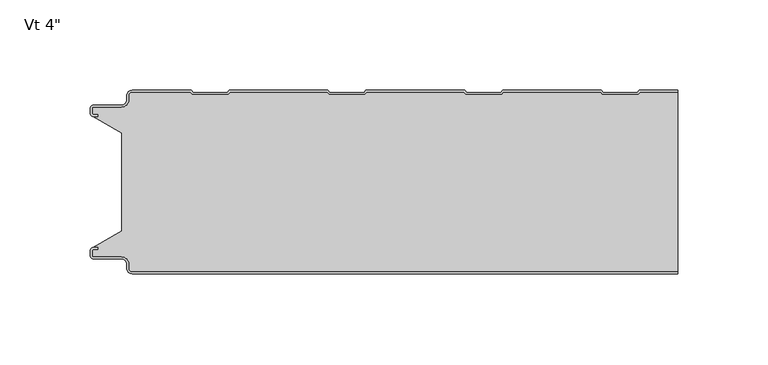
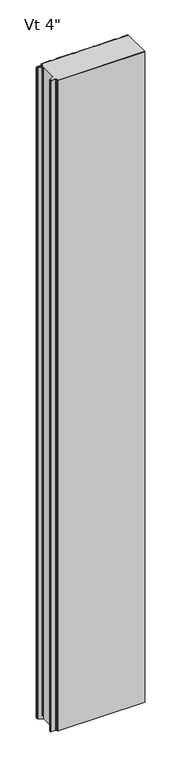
"""IFC4 building model written with IfcOpenShell, lengths in millimetres: plate geometry."""

from ifc_helpers import new_model, si_unit, frame, origin, place, context, project, spatial, polyline, circle_curve, source, transform, mapped, element, save
from ifc_brep_helpers import plane_surface, cylinder_surface, revolved_surface, advanced_brep


def plate_86622dce(model_context):
    return source(origin(), model_context, "Body", "AdvancedBrep", [
        advanced_brep(
        [(133.0522163, -1.0, 2400.0), (153.7374998, -1.0, 2400.0), (153.7374998, 0.0, 2400.0), (132.6097769, 0.0, 2400.0), (131.5372521, -1.1911595, 2400.0), (112.6391361, -1.1911595, 2400.0), (111.5666112, 0.0, 2400.0), (56.9871567, 0.0, 2400.0), (55.9146318, -1.1911595, 2400.0), (37.0165158, -1.1911595, 2400.0), (35.943991, 0.0, 2400.0), (-18.6354636, 0.0, 2400.0), (-19.7079884, -1.1911595, 2400.0), (-38.6061045, -1.1911595, 2400.0), (-39.6786293, 0.0, 2400.0), (-94.2580838, 0.0, 2400.0), (-95.3306087, -1.1911595, 2400.0), (-114.2287247, -1.1911595, 2400.0), (-115.3012496, 0.0, 2400.0), (-147.9102806, 0.0, 2400.0), (-150.8875472, -2.9772904, 2400.0), (-150.8875472, -5.2691742, 2400.0), (-153.8648158, -8.2464427, 2400.0), (-169.4612418, -8.2464427, 2400.0), (-171.0491183, -9.8343193, 2400.0), (-171.0491183, -12.905868, 2400.0), (-169.4612418, -14.4937445, 2400.0), (-167.1062063, -14.4937445, 2400.0), (-167.1062063, -13.4937445, 2400.0), (-169.4612418, -13.4937445, 2400.0), (-170.0491183, -12.905868, 2400.0), (-170.0491183, -9.8343193, 2400.0), (-169.4612418, -9.2464427, 2400.0), (-153.8648158, -9.2464427, 2400.0), (-149.8875472, -5.2691742, 2400.0), (-149.8875472, -2.9772904, 2400.0), (-147.9102799, -1.0000218, 2400.0), (-115.7436889, -1.0, 2400.0), (-114.671164, -2.1911595, 2400.0), (-94.8881694, -2.1911595, 2400.0), (-93.8156445, -1.0, 2400.0), (-40.1210686, -1.0, 2400.0), (-39.0485438, -2.1911595, 2400.0), (-19.2655491, -2.1911595, 2400.0), (-18.1930243, -1.0, 2400.0), (35.5015516, -1.0, 2400.0), (36.5740765, -2.1911595, 2400.0), (56.3570712, -2.1911595, 2400.0), (57.429596, -1.0, 2400.0), (111.1241719, -1.0, 2400.0), (112.1966967, -2.1911595, 2400.0), (131.9796914, -2.1911595, 2400.0), (132.6097769, 0.0, 0.0), (153.7374998, 0.0, 0.0), (153.7374998, -1.0, 0.0), (133.0522163, -1.0, 0.0), (131.9796914, -2.1911595, 0.0), (112.1966967, -2.1911595, 0.0), (111.1241719, -1.0, 0.0), (57.429596, -1.0, 0.0), (56.3570712, -2.1911595, 0.0), (36.5740765, -2.1911595, 0.0), (35.5015516, -1.0, 0.0), (-18.1930243, -1.0, 0.0), (-19.2655491, -2.1911595, 0.0), (-39.0485438, -2.1911595, 0.0), (-40.1210686, -1.0, 0.0), (-93.8156445, -1.0, 0.0), (-94.8881694, -2.1911595, 0.0), (-114.671164, -2.1911595, 0.0), (-115.7436889, -1.0, 0.0), (-147.9102799, -1.0, 0.0), (-149.8875472, -2.9772904, 0.0), (-149.8875472, -5.2691742, 0.0), (-153.8648158, -9.2464427, 0.0), (-169.4612418, -9.2464427, 0.0), (-170.0491183, -9.8343193, 0.0), (-170.0491183, -12.905868, 0.0), (-169.4612418, -13.4937445, 0.0), (-167.1062063, -13.4937445, 0.0), (-167.1062063, -14.4937445, 0.0), (-169.4612418, -14.4937445, 0.0), (-171.0491183, -12.905868, 0.0), (-171.0491183, -9.8343193, 0.0), (-169.4612418, -8.2464427, 0.0), (-153.8648158, -8.2464427, 0.0), (-150.8875472, -5.2691742, 0.0), (-150.8875472, -2.9772904, 0.0), (-147.9102806, -2.18e-05, 0.0), (-115.3012496, 0.0, 0.0), (-114.2287247, -1.1911595, 0.0), (-95.3306087, -1.1911595, 0.0), (-94.2580838, 0.0, 0.0), (-39.6786293, 0.0, 0.0), (-38.6061045, -1.1911595, 0.0), (-19.7079884, -1.1911595, 0.0), (-18.6354636, 0.0, 0.0), (35.943991, 0.0, 0.0), (37.0165158, -1.1911595, 0.0), (55.9146318, -1.1911595, 0.0), (56.9871567, 0.0, 0.0), (111.5666112, 0.0, 0.0), (112.6391361, -1.1911595, 0.0), (131.5372521, -1.1911595, 0.0)],
        [
            (0, 1),
            (1, 2),
            (2, 3),
            (3, 4),
            (4, 5),
            (5, 6),
            (6, 7),
            (7, 8),
            (8, 9),
            (9, 10),
            (10, 11),
            (11, 12),
            (12, 13),
            (13, 14),
            (14, 15),
            (15, 16),
            (16, 17),
            (17, 18),
            (18, 19),
            (19, 20, circle_curve(frame((-147.9102787, -2.9772904, 2400.0), z_axis=(0.0, 0.0, 1.0), x_axis=(0.0, 1.0, 0.0)), 2.9772685)),
            (20, 21),
            (21, 22, circle_curve(frame((-153.8648158, -5.2691742, 2400.0), z_axis=(0.0, 0.0, -1.0), x_axis=(0.0, 1.0, 0.0)), 2.9772685)),
            (22, 23),
            (23, 24, circle_curve(frame((-169.4612418, -9.8343193, 2400.0), z_axis=(0.0, 0.0, 1.0), x_axis=(0.0, 1.0, 0.0)), 1.5878765)),
            (24, 25),
            (25, 26, circle_curve(frame((-169.4612418, -12.905868, 2400.0), z_axis=(0.0, 0.0, 1.0), x_axis=(0.0, 1.0, 0.0)), 1.5878765)),
            (26, 27),
            (27, 28),
            (28, 29),
            (29, 30, circle_curve(frame((-169.4612418, -12.905868, 2400.0), z_axis=(0.0, 0.0, -1.0), x_axis=(0.0, 1.0, 0.0)), 0.5878765)),
            (30, 31),
            (31, 32, circle_curve(frame((-169.4612418, -9.8343193, 2400.0), z_axis=(0.0, 0.0, -1.0), x_axis=(0.0, 1.0, 0.0)), 0.5878765)),
            (32, 33),
            (33, 34, circle_curve(frame((-153.8648158, -5.2691742, 2400.0), z_axis=(0.0, 0.0, 1.0), x_axis=(0.0, 1.0, 0.0)), 3.9772685)),
            (34, 35),
            (35, 36, circle_curve(frame((-147.9102787, -2.9772904, 2400.0), z_axis=(0.0, 0.0, -1.0), x_axis=(0.0, 1.0, 0.0)), 1.9772685)),
            (36, 37),
            (37, 38),
            (38, 39),
            (39, 40),
            (40, 41),
            (41, 42),
            (42, 43),
            (43, 44),
            (44, 45),
            (45, 46),
            (46, 47),
            (47, 48),
            (48, 49),
            (49, 50),
            (50, 51),
            (51, 0),
            (52, 53),
            (53, 54),
            (54, 55),
            (55, 56),
            (56, 57),
            (57, 58),
            (58, 59),
            (59, 60),
            (60, 61),
            (61, 62),
            (62, 63),
            (63, 64),
            (64, 65),
            (65, 66),
            (66, 67),
            (67, 68),
            (68, 69),
            (69, 70),
            (70, 71),
            (71, 72, circle_curve(frame((-147.9102787, -2.9772904, 0.0), z_axis=(0.0, 0.0, 1.0), x_axis=(0.0, 1.0, 0.0)), 1.9772685)),
            (72, 73),
            (73, 74, circle_curve(frame((-153.8648158, -5.2691742, 0.0), z_axis=(0.0, 0.0, -1.0), x_axis=(0.0, 1.0, 0.0)), 3.9772685)),
            (74, 75),
            (75, 76, circle_curve(frame((-169.4612418, -9.8343193, 0.0), z_axis=(0.0, 0.0, 1.0), x_axis=(0.0, 1.0, 0.0)), 0.5878765)),
            (76, 77),
            (77, 78, circle_curve(frame((-169.4612418, -12.905868, 0.0), z_axis=(0.0, 0.0, 1.0), x_axis=(0.0, 1.0, 0.0)), 0.5878765)),
            (78, 79),
            (79, 80),
            (80, 81),
            (81, 82, circle_curve(frame((-169.4612418, -12.905868, 0.0), z_axis=(0.0, 0.0, -1.0), x_axis=(0.0, 1.0, 0.0)), 1.5878765)),
            (82, 83),
            (83, 84, circle_curve(frame((-169.4612418, -9.8343193, 0.0), z_axis=(0.0, 0.0, -1.0), x_axis=(0.0, 1.0, 0.0)), 1.5878765)),
            (84, 85),
            (85, 86, circle_curve(frame((-153.8648158, -5.2691742, 0.0), z_axis=(0.0, 0.0, 1.0), x_axis=(0.0, 1.0, 0.0)), 2.9772685)),
            (86, 87),
            (87, 88, circle_curve(frame((-147.9102787, -2.9772904, 0.0), z_axis=(0.0, 0.0, -1.0), x_axis=(0.0, 1.0, 0.0)), 2.9772685)),
            (88, 89),
            (89, 90),
            (90, 91),
            (91, 92),
            (92, 93),
            (93, 94),
            (94, 95),
            (95, 96),
            (96, 97),
            (97, 98),
            (98, 99),
            (99, 100),
            (100, 101),
            (101, 102),
            (102, 103),
            (103, 52),
            (54, 1),
            (0, 55),
            (51, 56),
            (50, 57),
            (49, 58),
            (48, 59),
            (47, 60),
            (46, 61),
            (45, 62),
            (44, 63),
            (43, 64),
            (42, 65),
            (41, 66),
            (40, 67),
            (39, 68),
            (38, 69),
            (37, 70),
            (36, 71),
            (35, 72),
            (34, 73),
            (33, 74),
            (32, 75),
            (31, 76),
            (30, 77),
            (29, 78),
            (28, 79),
            (27, 80),
            (26, 81),
            (25, 82),
            (24, 83),
            (23, 84),
            (22, 85),
            (21, 86),
            (20, 87),
            (19, 88),
            (18, 89),
            (17, 90),
            (16, 91),
            (15, 92),
            (14, 93),
            (13, 94),
            (12, 95),
            (11, 96),
            (10, 97),
            (9, 98),
            (8, 99),
            (7, 100),
            (6, 101),
            (5, 102),
            (4, 103),
            (3, 52),
            (2, 53),
        ],
        [
            plane_surface(frame((422.5250002, 0.0, 2400.0), z_axis=(0.0, 0.0, 1.0), x_axis=(0.0, 1.0, 0.0))),
            plane_surface(frame((422.5250002, 0.0, 0.0), z_axis=(0.0, 0.0, -1.0), x_axis=(0.0, 1.0, 0.0))),
            plane_surface(frame((186.7467922, -1.0, 2400.0), z_axis=(0.0, -1.0, 0.0), x_axis=(0.0, 0.0, -1.0))),
            plane_surface(frame((133.0522163, -1.0, 2400.0), z_axis=(0.7431448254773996, -0.6691306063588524, 0.0), x_axis=(0.0, 0.0, -1.0))),
            plane_surface(frame((131.9796914, -2.1911595, 2400.0), z_axis=(0.0, -1.0, 0.0), x_axis=(0.0, 0.0, -1.0))),
            plane_surface(frame((112.1966967, -2.1911595, 2400.0), z_axis=(-0.7431448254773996, -0.6691306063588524, 0.0), x_axis=(0.0, 0.0, -1.0))),
            plane_surface(frame((111.1241719, -1.0, 2400.0), z_axis=(0.0, -1.0, 0.0), x_axis=(0.0, 0.0, -1.0))),
            plane_surface(frame((57.429596, -1.0, 2400.0), z_axis=(0.7431448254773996, -0.6691306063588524, 0.0), x_axis=(0.0, 0.0, -1.0))),
            plane_surface(frame((56.3570712, -2.1911595, 2400.0), z_axis=(0.0, -1.0, 0.0), x_axis=(0.0, 0.0, -1.0))),
            plane_surface(frame((36.5740765, -2.1911595, 2400.0), z_axis=(-0.7431448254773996, -0.6691306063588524, 0.0), x_axis=(0.0, 0.0, -1.0))),
            plane_surface(frame((35.5015516, -1.0, 2400.0), z_axis=(0.0, -1.0, 0.0), x_axis=(0.0, 0.0, -1.0))),
            plane_surface(frame((-18.1930243, -1.0, 2400.0), z_axis=(0.7431448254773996, -0.6691306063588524, 0.0), x_axis=(0.0, 0.0, -1.0))),
            plane_surface(frame((-19.2655491, -2.1911595, 2400.0), z_axis=(0.0, -1.0, 0.0), x_axis=(0.0, 0.0, -1.0))),
            plane_surface(frame((-39.0485438, -2.1911595, 2400.0), z_axis=(-0.7431448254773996, -0.6691306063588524, 0.0), x_axis=(0.0, 0.0, -1.0))),
            plane_surface(frame((-40.1210686, -1.0, 2400.0), z_axis=(0.0, -1.0, 0.0), x_axis=(0.0, 0.0, -1.0))),
            plane_surface(frame((-93.8156445, -1.0, 2400.0), z_axis=(0.7431448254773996, -0.6691306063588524, 0.0), x_axis=(0.0, 0.0, -1.0))),
            plane_surface(frame((-94.8881694, -2.1911595, 2400.0), z_axis=(0.0, -1.0, 0.0), x_axis=(0.0, 0.0, -1.0))),
            plane_surface(frame((-114.671164, -2.1911595, 2400.0), z_axis=(-0.7431448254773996, -0.6691306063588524, 0.0), x_axis=(0.0, 0.0, -1.0))),
            plane_surface(frame((-115.7436889, -1.0, 2400.0), z_axis=(0.0, -1.0, 0.0), x_axis=(0.0, 0.0, -1.0))),
            revolved_surface(polyline([(-147.9102787, -1.0000218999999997, 0.0), (-147.9102787, -1.0000218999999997, 2400.0)]), (-147.9102787, -2.9772904, 2400.0), (0.0, 0.0, -1.0)),
            plane_surface(frame((-149.8875472, -2.9772904, 2400.0), z_axis=(1.0, 0.0, 0.0), x_axis=(0.0, 0.0, -1.0))),
            cylinder_surface(frame((-153.8648158, -5.2691742, 2400.0), z_axis=(0.0, 0.0, 1.0), x_axis=(0.0, 1.0, 0.0)), 3.9772685),
            plane_surface(frame((-153.8648158, -9.2464427, 2400.0), z_axis=(0.0, -1.0, 0.0), x_axis=(0.0, 0.0, -1.0))),
            revolved_surface(polyline([(-169.4612418, -9.2464428, 0.0), (-169.4612418, -9.2464428, 2400.0)]), (-169.4612418, -9.8343193, 2400.0), (0.0, 0.0, -1.0)),
            plane_surface(frame((-170.0491183, -9.8343193, 2400.0), z_axis=(1.0, 0.0, 0.0), x_axis=(0.0, 0.0, -1.0))),
            revolved_surface(polyline([(-169.4612418, -12.3179915, 0.0), (-169.4612418, -12.3179915, 2400.0)]), (-169.4612418, -12.905868, 2400.0), (0.0, 0.0, -1.0)),
            plane_surface(frame((-169.4612418, -13.4937445, 2400.0), z_axis=(0.0, 1.0, 0.0), x_axis=(0.0, 0.0, -1.0))),
            plane_surface(frame((-167.1062063, -13.4937445, 2400.0), z_axis=(1.0, 0.0, 0.0), x_axis=(0.0, 0.0, -1.0))),
            plane_surface(frame((-167.1062063, -14.4937445, 2400.0), z_axis=(0.0, -1.0, 0.0), x_axis=(0.0, 0.0, -1.0))),
            cylinder_surface(frame((-169.4612418, -12.905868, 2400.0), z_axis=(0.0, 0.0, 1.0), x_axis=(0.0, 1.0, 0.0)), 1.5878765),
            plane_surface(frame((-171.0491183, -12.905868, 2400.0), z_axis=(-1.0, 0.0, 0.0), x_axis=(0.0, 0.0, -1.0))),
            cylinder_surface(frame((-169.4612418, -9.8343193, 2400.0), z_axis=(0.0, 0.0, 1.0), x_axis=(0.0, 1.0, 0.0)), 1.5878765),
            plane_surface(frame((-169.4612418, -8.2464427, 2400.0), z_axis=(0.0, 1.0, 0.0), x_axis=(0.0, 0.0, -1.0))),
            revolved_surface(polyline([(-153.8648158, -2.2919057, 0.0), (-153.8648158, -2.2919057, 2400.0)]), (-153.8648158, -5.2691742, 2400.0), (0.0, 0.0, -1.0)),
            plane_surface(frame((-150.8875472, -5.2691742, 2400.0), z_axis=(-1.0, 0.0, 0.0), x_axis=(0.0, 0.0, -1.0))),
            cylinder_surface(frame((-147.9102787, -2.9772904, 2400.0), z_axis=(0.0, 0.0, 1.0), x_axis=(0.0, 1.0, 0.0)), 2.9772685),
            plane_surface(frame((-147.9102806, 0.0, 2400.0), z_axis=(0.0, 1.0, 0.0), x_axis=(0.0, 0.0, -1.0))),
            plane_surface(frame((-115.3012496, 0.0, 2400.0), z_axis=(0.7431448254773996, 0.6691306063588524, 0.0), x_axis=(0.0, 0.0, -1.0))),
            plane_surface(frame((-114.2287247, -1.1911595, 2400.0), z_axis=(0.0, 1.0, 0.0), x_axis=(0.0, 0.0, -1.0))),
            plane_surface(frame((-95.3306087, -1.1911595, 2400.0), z_axis=(-0.7431448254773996, 0.6691306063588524, 0.0), x_axis=(0.0, 0.0, -1.0))),
            plane_surface(frame((-94.2580838, 0.0, 2400.0), z_axis=(0.0, 1.0, 0.0), x_axis=(0.0, 0.0, -1.0))),
            plane_surface(frame((-39.6786293, 0.0, 2400.0), z_axis=(0.7431448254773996, 0.6691306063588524, 0.0), x_axis=(0.0, 0.0, -1.0))),
            plane_surface(frame((-38.6061045, -1.1911595, 2400.0), z_axis=(0.0, 1.0, 0.0), x_axis=(0.0, 0.0, -1.0))),
            plane_surface(frame((-19.7079884, -1.1911595, 2400.0), z_axis=(-0.7431448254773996, 0.6691306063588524, 0.0), x_axis=(0.0, 0.0, -1.0))),
            plane_surface(frame((-18.6354636, 0.0, 2400.0), z_axis=(0.0, 1.0, 0.0), x_axis=(0.0, 0.0, -1.0))),
            plane_surface(frame((35.943991, 0.0, 2400.0), z_axis=(0.7431448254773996, 0.6691306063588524, 0.0), x_axis=(0.0, 0.0, -1.0))),
            plane_surface(frame((37.0165158, -1.1911595, 2400.0), z_axis=(0.0, 1.0, 0.0), x_axis=(0.0, 0.0, -1.0))),
            plane_surface(frame((55.9146318, -1.1911595, 2400.0), z_axis=(-0.7431448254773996, 0.6691306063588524, 0.0), x_axis=(0.0, 0.0, -1.0))),
            plane_surface(frame((56.9871567, 0.0, 2400.0), z_axis=(0.0, 1.0, 0.0), x_axis=(0.0, 0.0, -1.0))),
            plane_surface(frame((111.5666112, 0.0, 2400.0), z_axis=(0.7431448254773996, 0.6691306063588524, 0.0), x_axis=(0.0, 0.0, -1.0))),
            plane_surface(frame((112.6391361, -1.1911595, 2400.0), z_axis=(0.0, 1.0, 0.0), x_axis=(0.0, 0.0, -1.0))),
            plane_surface(frame((131.5372521, -1.1911595, 2400.0), z_axis=(-0.7431448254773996, 0.6691306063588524, 0.0), x_axis=(0.0, 0.0, -1.0))),
            plane_surface(frame((132.6097769, 0.0, 2400.0), z_axis=(0.0, 1.0, 0.0), x_axis=(0.0, 0.0, -1.0))),
            plane_surface(frame((153.7374998, -111.6, 2400.0), z_axis=(1.0, 0.0, 0.0), x_axis=(0.0, 0.0, -1.0))),
        ],
        [
            (0, [[1, 2, 3, 4, 5, 6, 7, 8, 9, 10, 11, 12, 13, 14, 15, 16, 17, 18, 19, 20, 21, 22, 23, 24, 25, 26, 27, 28, 29, 30, 31, 32, 33, 34, 35, 36, 37, 38, 39, 40, 41, 42, 43, 44, 45, 46, 47, 48, 49, 50, 51, 52]]),
            (1, [[53, 54, 55, 56, 57, 58, 59, 60, 61, 62, 63, 64, 65, 66, 67, 68, 69, 70, 71, 72, 73, 74, 75, 76, 77, 78, 79, 80, 81, 82, 83, 84, 85, 86, 87, 88, 89, 90, 91, 92, 93, 94, 95, 96, 97, 98, 99, 100, 101, 102, 103, 104]]),
            (2, [[-55, 105, -1, 106]]),
            (3, [[107, -56, -106, -52]]),
            (4, [[108, -57, -107, -51]]),
            (5, [[109, -58, -108, -50]]),
            (6, [[110, -59, -109, -49]]),
            (7, [[111, -60, -110, -48]]),
            (8, [[112, -61, -111, -47]]),
            (9, [[113, -62, -112, -46]]),
            (10, [[114, -63, -113, -45]]),
            (11, [[115, -64, -114, -44]]),
            (12, [[116, -65, -115, -43]]),
            (13, [[117, -66, -116, -42]]),
            (14, [[118, -67, -117, -41]]),
            (15, [[119, -68, -118, -40]]),
            (16, [[120, -69, -119, -39]]),
            (17, [[121, -70, -120, -38]]),
            (18, [[122, -71, -121, -37]]),
            (19, [[123, -72, -122, -36]]),
            (20, [[124, -73, -123, -35]]),
            (21, [[125, -74, -124, -34]]),
            (22, [[126, -75, -125, -33]]),
            (23, [[127, -76, -126, -32]]),
            (24, [[128, -77, -127, -31]]),
            (25, [[129, -78, -128, -30]]),
            (26, [[130, -79, -129, -29]]),
            (27, [[131, -80, -130, -28]]),
            (28, [[132, -81, -131, -27]]),
            (29, [[133, -82, -132, -26]]),
            (30, [[134, -83, -133, -25]]),
            (31, [[135, -84, -134, -24]]),
            (32, [[136, -85, -135, -23]]),
            (33, [[137, -86, -136, -22]]),
            (34, [[138, -87, -137, -21]]),
            (35, [[139, -88, -138, -20]]),
            (36, [[140, -89, -139, -19]]),
            (37, [[141, -90, -140, -18]]),
            (38, [[142, -91, -141, -17]]),
            (39, [[143, -92, -142, -16]]),
            (40, [[144, -93, -143, -15]]),
            (41, [[145, -94, -144, -14]]),
            (42, [[146, -95, -145, -13]]),
            (43, [[147, -96, -146, -12]]),
            (44, [[148, -97, -147, -11]]),
            (45, [[149, -98, -148, -10]]),
            (46, [[150, -99, -149, -9]]),
            (47, [[151, -100, -150, -8]]),
            (48, [[152, -101, -151, -7]]),
            (49, [[153, -102, -152, -6]]),
            (50, [[154, -103, -153, -5]]),
            (51, [[155, -104, -154, -4]]),
            (52, [[-3, 156, -53, -155]]),
            (53, [[-105, -54, -156, -2]]),
        ],
    ),
        advanced_brep(
        [(-149.8873936, -98.6223811, 2400.0), (-149.8873936, -96.3308685, 2400.0), (-153.864739, -92.3535232, 2400.0), (-169.4612512, -92.3535232, 2400.0), (-170.0491084, -91.765666, 2400.0), (-170.0491084, -88.6941346, 2400.0), (-169.4612373, -88.1062635, 2400.0), (-167.1062063, -88.1062635, 2400.0), (-167.1062063, -87.1062599, 2400.0), (-169.4612418, -87.1062599, 2400.0), (-171.0491183, -88.6941364, 2400.0), (-171.0491183, -91.7656851, 2400.0), (-169.4612418, -93.3535616, 2400.0), (-153.8648158, -93.3535616, 2400.0), (-150.8875472, -96.3308302, 2400.0), (-150.8875472, -98.622714, 2400.0), (-147.9102787, -101.5999825, 2400.0), (153.7374998, -101.6, 2400.0), (153.7374998, -100.5992912, 2400.0), (-147.9104835, -100.5992912, 2400.0), (-149.8873936, -98.6223811, 0.0), (-147.9104835, -100.5992912, 0.0), (153.7374998, -100.5992912, 0.0), (153.7374998, -101.6, 0.0), (-147.9102787, -101.6, 0.0), (-150.8875472, -98.622714, 0.0), (-150.8875472, -96.3308302, 0.0), (-153.8648158, -93.3535616, 0.0), (-169.4612418, -93.3535616, 0.0), (-171.0491183, -91.7656851, 0.0), (-171.0491183, -88.6941364, 0.0), (-169.4612418, -87.1062599, 0.0), (-167.1062063, -87.1062599, 0.0), (-167.1062063, -88.1062635, 0.0), (-169.4612373, -88.1062635, 0.0), (-170.0491084, -88.6941346, 0.0), (-170.0491084, -91.765666, 0.0), (-169.4612512, -92.3535232, 0.0), (-153.864739, -92.3535232, 0.0), (-149.8873936, -96.3308685, 0.0)],
        [
            (0, 1),
            (1, 2, circle_curve(frame((-153.864739, -96.3308685, 2400.0), z_axis=(0.0, 0.0, 1.0), x_axis=(-1.0, 0.0, 0.0)), 3.9773454)),
            (2, 3),
            (3, 4, circle_curve(frame((-169.4612512, -91.765666, 2400.0), z_axis=(0.0, 0.0, -1.0), x_axis=(-1.0, 0.0, 0.0)), 0.5878572)),
            (4, 5),
            (5, 6, circle_curve(frame((-169.4612373, -88.6941346, 2400.0), z_axis=(0.0, 0.0, -1.0), x_axis=(-1.0, 0.0, 0.0)), 0.5878711)),
            (6, 7),
            (7, 8),
            (8, 9),
            (9, 10, circle_curve(frame((-169.4612418, -88.6941364, 2400.0), z_axis=(0.0, 0.0, 1.0), x_axis=(-1.0, 0.0, 0.0)), 1.5878765)),
            (10, 11),
            (11, 12, circle_curve(frame((-169.4612418, -91.7656851, 2400.0), z_axis=(0.0, 0.0, 1.0), x_axis=(-1.0, 0.0, 0.0)), 1.5878765)),
            (12, 13),
            (13, 14, circle_curve(frame((-153.8648158, -96.3308302, 2400.0), z_axis=(0.0, 0.0, -1.0), x_axis=(-1.0, 0.0, 0.0)), 2.9772685)),
            (14, 15),
            (15, 16, circle_curve(frame((-147.9102787, -98.622714, 2400.0), z_axis=(0.0, 0.0, 1.0), x_axis=(-1.0, 0.0, 0.0)), 2.9772685)),
            (16, 17),
            (17, 18),
            (18, 19),
            (19, 0, circle_curve(frame((-147.9104835, -98.6223811, 2400.0), z_axis=(0.0, 0.0, -1.0), x_axis=(-1.0, 0.0, 0.0)), 1.9769101)),
            (20, 21, circle_curve(frame((-147.9104835, -98.6223811, 0.0), z_axis=(0.0, 0.0, 1.0), x_axis=(-1.0, 0.0, 0.0)), 1.9769101)),
            (21, 22),
            (22, 23),
            (23, 24),
            (24, 25, circle_curve(frame((-147.9102787, -98.622714, 0.0), z_axis=(0.0, 0.0, -1.0), x_axis=(-1.0, 0.0, 0.0)), 2.9772685)),
            (25, 26),
            (26, 27, circle_curve(frame((-153.8648158, -96.3308302, 0.0), z_axis=(0.0, 0.0, 1.0), x_axis=(-1.0, 0.0, 0.0)), 2.9772685)),
            (27, 28),
            (28, 29, circle_curve(frame((-169.4612418, -91.7656851, 0.0), z_axis=(0.0, 0.0, -1.0), x_axis=(-1.0, 0.0, 0.0)), 1.5878765)),
            (29, 30),
            (30, 31, circle_curve(frame((-169.4612418, -88.6941364, 0.0), z_axis=(0.0, 0.0, -1.0), x_axis=(-1.0, 0.0, 0.0)), 1.5878765)),
            (31, 32),
            (32, 33),
            (33, 34),
            (34, 35, circle_curve(frame((-169.4612373, -88.6941346, 0.0), z_axis=(0.0, 0.0, 1.0), x_axis=(-1.0, 0.0, 0.0)), 0.5878711)),
            (35, 36),
            (36, 37, circle_curve(frame((-169.4612512, -91.765666, 0.0), z_axis=(0.0, 0.0, 1.0), x_axis=(-1.0, 0.0, 0.0)), 0.5878572)),
            (37, 38),
            (38, 39, circle_curve(frame((-153.864739, -96.3308685, 0.0), z_axis=(0.0, 0.0, -1.0), x_axis=(-1.0, 0.0, 0.0)), 3.9773454)),
            (39, 20),
            (17, 23),
            (22, 18),
            (16, 24),
            (21, 19),
            (20, 0),
            (39, 1),
            (38, 2),
            (37, 3),
            (4, 36),
            (35, 5),
            (34, 6),
            (33, 7),
            (32, 8),
            (31, 9),
            (30, 10),
            (29, 11),
            (28, 12),
            (27, 13),
            (26, 14),
            (25, 15),
        ],
        [
            plane_surface(frame((422.5250002, -101.6, 2400.0), z_axis=(0.0, 0.0, 1.0), x_axis=(0.0, -1.0, 0.0))),
            plane_surface(frame((422.5250002, -101.6, 0.0), z_axis=(0.0, 0.0, -1.0), x_axis=(0.0, -1.0, 0.0))),
            plane_surface(frame((153.7374998, -111.6, 2400.0), z_axis=(1.0, 0.0, 0.0), x_axis=(0.0, 0.0, -1.0))),
            plane_surface(frame((997.0725653, -101.6, 2400.0), z_axis=(0.0, -1.0, 0.0), x_axis=(0.0, 0.0, -1.0))),
            plane_surface(frame((-147.9104835, -100.5992912, 2400.0), z_axis=(0.0, 1.0, 0.0), x_axis=(0.0, 0.0, -1.0))),
            revolved_surface(polyline([(-149.8873936, -98.6223811, 0.0), (-149.8873936, -98.6223811, 2400.0)]), (-147.9104835, -98.6223811, 2400.0), (0.0, 0.0, -1.0)),
            plane_surface(frame((-149.8873936, -96.3308685, 2400.0), z_axis=(1.0, 0.0, 0.0), x_axis=(0.0, 0.0, -1.0))),
            cylinder_surface(frame((-153.864739, -96.3308685, 2400.0), z_axis=(0.0, 0.0, 1.0), x_axis=(-1.0, 0.0, 0.0)), 3.9773454),
            plane_surface(frame((-169.4612512, -92.3535232, 2400.0), z_axis=(0.0, 1.0, 0.0), x_axis=(0.0, 0.0, -1.0))),
            plane_surface(frame((-170.0491084, -88.6941346, 2400.0), z_axis=(1.0, 0.0, 0.0), x_axis=(0.0, 0.0, -1.0))),
            revolved_surface(polyline([(-170.0491084, -88.6941346, 0.0), (-170.0491084, -88.6941346, 2400.0)]), (-169.4612373, -88.6941346, 2400.0), (0.0, 0.0, -1.0)),
            plane_surface(frame((-167.1062063, -88.1062635, 2400.0), z_axis=(0.0, -1.0, 0.0), x_axis=(0.0, 0.0, -1.0))),
            plane_surface(frame((-167.1062063, -87.1062599, 2400.0), z_axis=(1.0, 0.0, 0.0), x_axis=(0.0, 0.0, -1.0))),
            plane_surface(frame((-169.4612418, -87.1062599, 2400.0), z_axis=(0.0, 1.0, 0.0), x_axis=(0.0, 0.0, -1.0))),
            cylinder_surface(frame((-169.4612418, -88.6941364, 2400.0), z_axis=(0.0, 0.0, 1.0), x_axis=(-1.0, 0.0, 0.0)), 1.5878765),
            plane_surface(frame((-171.0491183, -91.7656851, 2400.0), z_axis=(-1.0, 0.0, 0.0), x_axis=(0.0, 0.0, -1.0))),
            cylinder_surface(frame((-169.4612418, -91.7656851, 2400.0), z_axis=(0.0, 0.0, 1.0), x_axis=(-1.0, 0.0, 0.0)), 1.5878765),
            plane_surface(frame((-153.8648158, -93.3535616, 2400.0), z_axis=(0.0, -1.0, 0.0), x_axis=(0.0, 0.0, -1.0))),
            revolved_surface(polyline([(-156.8420843, -96.3308302, 0.0), (-156.8420843, -96.3308302, 2400.0)]), (-153.8648158, -96.3308302, 2400.0), (0.0, 0.0, -1.0)),
            plane_surface(frame((-150.8875472, -98.622714, 2400.0), z_axis=(-1.0, 0.0, 0.0), x_axis=(0.0, 0.0, -1.0))),
            cylinder_surface(frame((-147.9102787, -98.622714, 2400.0), z_axis=(0.0, 0.0, 1.0), x_axis=(-1.0, 0.0, 0.0)), 2.9772685),
            revolved_surface(polyline([(-170.0491084, -91.765666, 0.0), (-170.0491084, -91.765666, 2400.0)]), (-169.4612512, -91.765666, 2400.0), (0.0, 0.0, -1.0)),
        ],
        [
            (0, [[1, 2, 3, 4, 5, 6, 7, 8, 9, 10, 11, 12, 13, 14, 15, 16, 17, 18, 19, 20]]),
            (1, [[21, 22, 23, 24, 25, 26, 27, 28, 29, 30, 31, 32, 33, 34, 35, 36, 37, 38, 39, 40]]),
            (2, [[41, -23, 42, -18]]),
            (3, [[-24, -41, -17, 43]]),
            (4, [[-19, -42, -22, 44]]),
            (5, [[-44, -21, 45, -20]]),
            (6, [[-45, -40, 46, -1]]),
            (7, [[-46, -39, 47, -2]]),
            (8, [[-47, -38, 48, -3]]),
            (9, [[49, -36, 50, -5]]),
            (10, [[-50, -35, 51, -6]]),
            (11, [[-51, -34, 52, -7]]),
            (12, [[-52, -33, 53, -8]]),
            (13, [[-53, -32, 54, -9]]),
            (14, [[-54, -31, 55, -10]]),
            (15, [[-55, -30, 56, -11]]),
            (16, [[-56, -29, 57, -12]]),
            (17, [[-57, -28, 58, -13]]),
            (18, [[-58, -27, 59, -14]]),
            (19, [[-59, -26, 60, -15]]),
            (20, [[-60, -25, -43, -16]]),
            (21, [[-48, -37, -49, -4]]),
        ],
    ),
        advanced_brep(
        [(-149.88755, -98.6227194, 2400.0), (-147.910276, -100.5999935, 2400.0), (153.7374998, -100.6, 2400.0), (153.7374998, -1.0, 2400.0), (133.0522163, -1.0, 2400.0), (131.9796914, -2.1911595, 2400.0), (112.1966967, -2.1911595, 2400.0), (111.1241719, -1.0, 2400.0), (57.429596, -1.0, 2400.0), (56.3570712, -2.1911595, 2400.0), (36.5740765, -2.1911595, 2400.0), (35.5015516, -1.0, 2400.0), (-18.1930243, -1.0, 2400.0), (-19.2655491, -2.1911595, 2400.0), (-39.0485438, -2.1911595, 2400.0), (-40.1210686, -1.0, 2400.0), (-93.8156445, -1.0, 2400.0), (-94.8881694, -2.1911595, 2400.0), (-114.671164, -2.1911595, 2400.0), (-115.7436889, -1.0000109, 2400.0), (-147.910276, -1.0000109, 2400.0), (-149.88755, -2.9772849, 2400.0), (-149.88755, -5.2691749, 2400.0), (-153.8648171, -9.246442, 2400.0), (-169.4612416, -9.246442, 2400.0), (-170.0491185, -9.8343189, 2400.0), (-170.0491185, -12.9058679, 2400.0), (-169.4612418, -13.4937446, 2400.0), (-167.1062063, -13.4937446, 2400.0), (-167.1062063, -14.4937446, 2400.0), (-169.395785, -14.4937446, 2400.0), (-153.7374998, -23.7509179, 2400.0), (-153.7374998, -77.8490865, 2400.0), (-169.395785, -87.1062598, 2400.0), (-167.1062063, -87.1062598, 2400.0), (-167.1062063, -88.1062598, 2400.0), (-169.4612418, -88.1062598, 2400.0), (-170.0491185, -88.6941365, 2400.0), (-170.0491185, -91.7656854, 2400.0), (-169.4612416, -92.3535623, 2400.0), (-153.8648171, -92.3535623, 2400.0), (-149.88755, -96.3308295, 2400.0), (-149.88755, -98.6227194, 0.0), (-149.88755, -96.3308295, 0.0), (-153.8648171, -92.3535623, 0.0), (-169.4612416, -92.3535623, 0.0), (-170.0491185, -91.7656854, 0.0), (-170.0491185, -88.6941365, 0.0), (-169.4612418, -88.1062598, 0.0), (-167.1062063, -88.1062598, 0.0), (-167.1062063, -87.1062598, 0.0), (-169.395785, -87.1062598, 0.0), (-153.7374998, -77.8490865, 0.0), (-153.7374998, -23.7509179, 0.0), (-169.395785, -14.4937446, 0.0), (-167.1062063, -14.4937446, 0.0), (-167.1062063, -13.4937446, 0.0), (-169.4612418, -13.4937446, 0.0), (-170.0491185, -12.9058679, 0.0), (-170.0491185, -9.8343189, 0.0), (-169.4612416, -9.246442, 0.0), (-153.8648171, -9.246442, 0.0), (-149.88755, -5.2691749, 0.0), (-149.88755, -2.9772849, 0.0), (-147.910276, -1.0000109, 0.0), (-115.7436889, -1.0000109, 0.0), (-114.671164, -2.1911595, 0.0), (-94.8881694, -2.1911595, 0.0), (-93.8156445, -1.0, 0.0), (-40.1210686, -1.0, 0.0), (-39.0485438, -2.1911595, 0.0), (-19.2655491, -2.1911595, 0.0), (-18.1930243, -1.0, 0.0), (35.5015516, -1.0, 0.0), (36.5740765, -2.1911595, 0.0), (56.3570712, -2.1911595, 0.0), (57.429596, -1.0, 0.0), (111.1241719, -1.0, 0.0), (112.1966967, -2.1911595, 0.0), (131.9796914, -2.1911595, 0.0), (133.0522163, -1.0, 0.0), (153.7374998, -1.0, 0.0), (153.7374998, -100.6, 0.0), (-147.910276, -100.6, 0.0)],
        [
            (0, 1, circle_curve(frame((-147.910276, -98.6227194, 2400.0), z_axis=(0.0, 0.0, 1.0), x_axis=(-1.0, 0.0, 0.0)), 1.977274)),
            (1, 2),
            (2, 3),
            (3, 4),
            (4, 5),
            (5, 6),
            (6, 7),
            (7, 8),
            (8, 9),
            (9, 10),
            (10, 11),
            (11, 12),
            (12, 13),
            (13, 14),
            (14, 15),
            (15, 16),
            (16, 17),
            (17, 18),
            (18, 19),
            (19, 20),
            (20, 21, circle_curve(frame((-147.910276, -2.9772849, 2400.0), z_axis=(0.0, 0.0, 1.0), x_axis=(0.0, 1.0, 0.0)), 1.977274)),
            (21, 22),
            (22, 23, circle_curve(frame((-153.8648171, -5.2691749, 2400.0), z_axis=(0.0, 0.0, -1.0), x_axis=(0.0, 1.0, 0.0)), 3.9772671)),
            (23, 24),
            (24, 25, circle_curve(frame((-169.4612416, -9.8343189, 2400.0), z_axis=(0.0, 0.0, 1.0), x_axis=(0.0, 1.0, 0.0)), 0.5878769)),
            (25, 26),
            (26, 27, circle_curve(frame((-169.4612418, -12.9058679, 2400.0), z_axis=(0.0, 0.0, 1.0), x_axis=(0.0, 1.0, 0.0)), 0.5878766)),
            (27, 28),
            (28, 29),
            (29, 30),
            (30, 31),
            (31, 32),
            (32, 33),
            (33, 34),
            (34, 35),
            (35, 36),
            (36, 37, circle_curve(frame((-169.4612418, -88.6941365, 2400.0), z_axis=(0.0, 0.0, 1.0), x_axis=(-1.0, 0.0, 0.0)), 0.5878766)),
            (37, 38),
            (38, 39, circle_curve(frame((-169.4612416, -91.7656854, 2400.0), z_axis=(0.0, 0.0, 1.0), x_axis=(-1.0, 0.0, 0.0)), 0.5878769)),
            (39, 40),
            (40, 41, circle_curve(frame((-153.8648171, -96.3308295, 2400.0), z_axis=(0.0, 0.0, -1.0), x_axis=(-1.0, 0.0, 0.0)), 3.9772671)),
            (41, 0),
            (42, 43),
            (43, 44, circle_curve(frame((-153.8648171, -96.3308295, 0.0), z_axis=(0.0, 0.0, 1.0), x_axis=(-1.0, 0.0, 0.0)), 3.9772671)),
            (44, 45),
            (45, 46, circle_curve(frame((-169.4612416, -91.7656854, 0.0), z_axis=(0.0, 0.0, -1.0), x_axis=(-1.0, 0.0, 0.0)), 0.5878769)),
            (46, 47),
            (47, 48, circle_curve(frame((-169.4612418, -88.6941365, 0.0), z_axis=(0.0, 0.0, -1.0), x_axis=(-1.0, 0.0, 0.0)), 0.5878766)),
            (48, 49),
            (49, 50),
            (50, 51),
            (51, 52),
            (52, 53),
            (53, 54),
            (54, 55),
            (55, 56),
            (56, 57),
            (57, 58, circle_curve(frame((-169.4612418, -12.9058679, 0.0), z_axis=(0.0, 0.0, -1.0), x_axis=(0.0, 1.0, 0.0)), 0.5878766)),
            (58, 59),
            (59, 60, circle_curve(frame((-169.4612416, -9.8343189, 0.0), z_axis=(0.0, 0.0, -1.0), x_axis=(0.0, 1.0, 0.0)), 0.5878769)),
            (60, 61),
            (61, 62, circle_curve(frame((-153.8648171, -5.2691749, 0.0), z_axis=(0.0, 0.0, 1.0), x_axis=(0.0, 1.0, 0.0)), 3.9772671)),
            (62, 63),
            (63, 64, circle_curve(frame((-147.910276, -2.9772849, 0.0), z_axis=(0.0, 0.0, -1.0), x_axis=(0.0, 1.0, 0.0)), 1.977274)),
            (64, 65),
            (65, 66),
            (66, 67),
            (67, 68),
            (68, 69),
            (69, 70),
            (70, 71),
            (71, 72),
            (72, 73),
            (73, 74),
            (74, 75),
            (75, 76),
            (76, 77),
            (77, 78),
            (78, 79),
            (79, 80),
            (80, 81),
            (81, 82),
            (82, 83),
            (83, 42, circle_curve(frame((-147.910276, -98.6227194, 0.0), z_axis=(0.0, 0.0, -1.0), x_axis=(-1.0, 0.0, 0.0)), 1.977274)),
            (31, 53),
            (52, 32),
            (30, 54),
            (29, 55),
            (28, 56),
            (27, 57),
            (26, 58),
            (25, 59),
            (24, 60),
            (23, 61),
            (22, 62),
            (21, 63),
            (20, 64),
            (19, 65),
            (18, 66),
            (17, 67),
            (16, 68),
            (15, 69),
            (14, 70),
            (13, 71),
            (12, 72),
            (11, 73),
            (10, 74),
            (9, 75),
            (8, 76),
            (7, 77),
            (6, 78),
            (5, 79),
            (4, 80),
            (3, 81),
            (2, 82),
            (41, 43),
            (42, 0),
            (40, 44),
            (39, 45),
            (38, 46),
            (37, 47),
            (36, 48),
            (35, 49),
            (34, 50),
            (33, 51),
            (1, 83),
        ],
        [
            plane_surface(frame((422.5250002, -100.6, 2400.0), z_axis=(0.0, 0.0, 1.0), x_axis=(0.0, -1.0, 0.0))),
            plane_surface(frame((422.5250002, -100.6, 0.0), z_axis=(0.0, 0.0, -1.0), x_axis=(0.0, -1.0, 0.0))),
            plane_surface(frame((-153.7374998, -77.8490865, 2400.0), z_axis=(-1.0, 0.0, 0.0), x_axis=(0.0, 0.0, -1.0))),
            plane_surface(frame((-153.7374998, -23.7509179, 2400.0), z_axis=(-0.5089147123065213, -0.860816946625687, 0.0), x_axis=(0.0, 0.0, -1.0))),
            plane_surface(frame((-169.395785, -14.4937446, 2400.0), z_axis=(0.0, 1.0, 0.0), x_axis=(0.0, 0.0, -1.0))),
            plane_surface(frame((-167.1062063, -14.4937446, 2400.0), z_axis=(-1.0, 0.0, 0.0), x_axis=(0.0, 0.0, -1.0))),
            plane_surface(frame((-167.1062063, -13.4937446, 2400.0), z_axis=(0.0, -1.0, 0.0), x_axis=(0.0, 0.0, -1.0))),
            cylinder_surface(frame((-169.4612418, -12.9058679, 2400.0), z_axis=(0.0, 0.0, 1.0), x_axis=(0.0, 1.0, 0.0)), 0.5878766),
            plane_surface(frame((-170.0491185, -12.9058679, 2400.0), z_axis=(-1.0, 0.0, 0.0), x_axis=(0.0, 0.0, -1.0))),
            cylinder_surface(frame((-169.4612416, -9.8343189, 2400.0), z_axis=(0.0, 0.0, 1.0), x_axis=(0.0, 1.0, 0.0)), 0.5878769),
            plane_surface(frame((-169.4612416, -9.246442, 2400.0), z_axis=(0.0, 1.0, 0.0), x_axis=(0.0, 0.0, -1.0))),
            revolved_surface(polyline([(-153.8648171, -1.2919078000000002, 0.0), (-153.8648171, -1.2919078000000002, 2400.0)]), (-153.8648171, -5.2691749, 2400.0), (0.0, 0.0, -1.0)),
            plane_surface(frame((-149.88755, -5.2691749, 2400.0), z_axis=(-1.0, 0.0, 0.0), x_axis=(0.0, 0.0, -1.0))),
            cylinder_surface(frame((-147.910276, -2.9772849, 2400.0), z_axis=(0.0, 0.0, 1.0), x_axis=(0.0, 1.0, 0.0)), 1.977274),
            plane_surface(frame((-147.910276, -1.0000109, 2400.0), z_axis=(0.0, 1.0, 0.0), x_axis=(0.0, 0.0, -1.0))),
            plane_surface(frame((-115.7436889, -1.0000109, 2400.0), z_axis=(0.7431417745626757, 0.669133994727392, 0.0), x_axis=(0.0, 0.0, -1.0))),
            plane_surface(frame((-114.671164, -2.1911595, 2400.0), z_axis=(0.0, 1.0, 0.0), x_axis=(0.0, 0.0, -1.0))),
            plane_surface(frame((-94.8881694, -2.1911595, 2400.0), z_axis=(-0.7431448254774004, 0.6691306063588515, 0.0), x_axis=(0.0, 0.0, -1.0))),
            plane_surface(frame((-93.8156445, -1.0, 2400.0), z_axis=(0.0, 1.0, 0.0), x_axis=(0.0, 0.0, -1.0))),
            plane_surface(frame((-40.1210686, -1.0, 2400.0), z_axis=(0.7431448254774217, 0.6691306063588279, 0.0), x_axis=(0.0, 0.0, -1.0))),
            plane_surface(frame((-39.0485438, -2.1911595, 2400.0), z_axis=(0.0, 1.0, 0.0), x_axis=(0.0, 0.0, -1.0))),
            plane_surface(frame((-19.2655491, -2.1911595, 2400.0), z_axis=(-0.7431448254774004, 0.6691306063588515, 0.0), x_axis=(0.0, 0.0, -1.0))),
            plane_surface(frame((-18.1930243, -1.0, 2400.0), z_axis=(0.0, 1.0, 0.0), x_axis=(0.0, 0.0, -1.0))),
            plane_surface(frame((35.5015516, -1.0, 2400.0), z_axis=(0.7431448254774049, 0.6691306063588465, 0.0), x_axis=(0.0, 0.0, -1.0))),
            plane_surface(frame((36.5740765, -2.1911595, 2400.0), z_axis=(0.0, 1.0, 0.0), x_axis=(0.0, 0.0, -1.0))),
            plane_surface(frame((56.3570712, -2.1911595, 2400.0), z_axis=(-0.7431448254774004, 0.6691306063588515, 0.0), x_axis=(0.0, 0.0, -1.0))),
            plane_surface(frame((57.429596, -1.0, 2400.0), z_axis=(0.0, 1.0, 0.0), x_axis=(0.0, 0.0, -1.0))),
            plane_surface(frame((111.1241719, -1.0, 2400.0), z_axis=(0.7431448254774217, 0.6691306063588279, 0.0), x_axis=(0.0, 0.0, -1.0))),
            plane_surface(frame((112.1966967, -2.1911595, 2400.0), z_axis=(0.0, 1.0, 0.0), x_axis=(0.0, 0.0, -1.0))),
            plane_surface(frame((131.9796914, -2.1911595, 2400.0), z_axis=(-0.7431448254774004, 0.6691306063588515, 0.0), x_axis=(0.0, 0.0, -1.0))),
            plane_surface(frame((133.0522163, -1.0, 2400.0), z_axis=(0.0, 1.0, 0.0), x_axis=(0.0, 0.0, -1.0))),
            plane_surface(frame((153.7374998, -111.6, 2400.0), z_axis=(1.0, 0.0, 0.0), x_axis=(0.0, 0.0, -1.0))),
            plane_surface(frame((-149.88755, -98.6227194, 2400.0), z_axis=(-1.0, 0.0, 0.0), x_axis=(0.0, 0.0, -1.0))),
            revolved_surface(polyline([(-157.84208420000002, -96.3308295, 0.0), (-157.84208420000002, -96.3308295, 2400.0)]), (-153.8648171, -96.3308295, 2400.0), (0.0, 0.0, -1.0)),
            plane_surface(frame((-153.8648171, -92.3535623, 2400.0), z_axis=(0.0, -1.0, 0.0), x_axis=(0.0, 0.0, -1.0))),
            cylinder_surface(frame((-169.4612416, -91.7656854, 2400.0), z_axis=(0.0, 0.0, 1.0), x_axis=(-1.0, 0.0, 0.0)), 0.5878769),
            plane_surface(frame((-170.0491185, -91.7656854, 2400.0), z_axis=(-1.0, 0.0, 0.0), x_axis=(0.0, 0.0, -1.0))),
            cylinder_surface(frame((-169.4612418, -88.6941365, 2400.0), z_axis=(0.0, 0.0, 1.0), x_axis=(-1.0, 0.0, 0.0)), 0.5878766),
            plane_surface(frame((-169.4612418, -88.1062598, 2400.0), z_axis=(0.0, 1.0, 0.0), x_axis=(0.0, 0.0, -1.0))),
            plane_surface(frame((-167.1062063, -88.1062598, 2400.0), z_axis=(-1.0, 0.0, 0.0), x_axis=(0.0, 0.0, -1.0))),
            plane_surface(frame((-167.1062063, -87.1062598, 2400.0), z_axis=(0.0, -1.0, 0.0), x_axis=(0.0, 0.0, -1.0))),
            plane_surface(frame((-169.395785, -87.1062598, 2400.0), z_axis=(-0.5089147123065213, 0.860816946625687, 0.0), x_axis=(0.0, 0.0, -1.0))),
            plane_surface(frame((997.0725653, -100.6, 2400.0), z_axis=(0.0, -1.0, 0.0), x_axis=(0.0, 0.0, -1.0))),
            cylinder_surface(frame((-147.910276, -98.6227194, 2400.0), z_axis=(0.0, 0.0, 1.0), x_axis=(-1.0, 0.0, 0.0)), 1.977274),
        ],
        [
            (0, [[1, 2, 3, 4, 5, 6, 7, 8, 9, 10, 11, 12, 13, 14, 15, 16, 17, 18, 19, 20, 21, 22, 23, 24, 25, 26, 27, 28, 29, 30, 31, 32, 33, 34, 35, 36, 37, 38, 39, 40, 41, 42]]),
            (1, [[43, 44, 45, 46, 47, 48, 49, 50, 51, 52, 53, 54, 55, 56, 57, 58, 59, 60, 61, 62, 63, 64, 65, 66, 67, 68, 69, 70, 71, 72, 73, 74, 75, 76, 77, 78, 79, 80, 81, 82, 83, 84]]),
            (2, [[85, -53, 86, -32]]),
            (3, [[87, -54, -85, -31]]),
            (4, [[88, -55, -87, -30]]),
            (5, [[89, -56, -88, -29]]),
            (6, [[90, -57, -89, -28]]),
            (7, [[91, -58, -90, -27]]),
            (8, [[92, -59, -91, -26]]),
            (9, [[93, -60, -92, -25]]),
            (10, [[94, -61, -93, -24]]),
            (11, [[95, -62, -94, -23]]),
            (12, [[96, -63, -95, -22]]),
            (13, [[97, -64, -96, -21]]),
            (14, [[98, -65, -97, -20]]),
            (15, [[99, -66, -98, -19]]),
            (16, [[100, -67, -99, -18]]),
            (17, [[101, -68, -100, -17]]),
            (18, [[102, -69, -101, -16]]),
            (19, [[103, -70, -102, -15]]),
            (20, [[104, -71, -103, -14]]),
            (21, [[105, -72, -104, -13]]),
            (22, [[106, -73, -105, -12]]),
            (23, [[107, -74, -106, -11]]),
            (24, [[108, -75, -107, -10]]),
            (25, [[109, -76, -108, -9]]),
            (26, [[110, -77, -109, -8]]),
            (27, [[111, -78, -110, -7]]),
            (28, [[112, -79, -111, -6]]),
            (29, [[113, -80, -112, -5]]),
            (30, [[-4, 114, -81, -113]]),
            (31, [[115, -82, -114, -3]]),
            (32, [[116, -43, 117, -42]]),
            (33, [[118, -44, -116, -41]]),
            (34, [[119, -45, -118, -40]]),
            (35, [[120, -46, -119, -39]]),
            (36, [[121, -47, -120, -38]]),
            (37, [[122, -48, -121, -37]]),
            (38, [[123, -49, -122, -36]]),
            (39, [[124, -50, -123, -35]]),
            (40, [[125, -51, -124, -34]]),
            (41, [[-86, -52, -125, -33]]),
            (42, [[-83, -115, -2, 126]]),
            (43, [[-117, -84, -126, -1]]),
        ],
    ),
    ])


if __name__ == "__main__":
    model = new_model("IFC4")
    model_context = context("Model", 3, world=origin())
    ifc_project = project(units=[si_unit("LENGTHUNIT", "METRE", prefix="MILLI")], contexts=[model_context])
    site = spatial("IfcSite", under=ifc_project)
    building = spatial("IfcBuilding", under=site)
    placement = place(None, origin())
    plate_shape = plate_86622dce(model_context)
    element("IfcPlate", 1, ObjectType="KIP-SLI-FLI-R19-CP-Vt-FL_SL : Vt 4\"", at=placement, inside=building, context=model_context, shape_type="MappedRepresentation", body=[
        mapped(plate_shape, transform((0.0, 0.0, 0.0), x_axis=(1.0, 0.0, 0.0), y_axis=(0.0, 1.0, 0.0), z_axis=(0.0, 0.0, 1.0))),
    ])
    save(model, "model.ifc")
